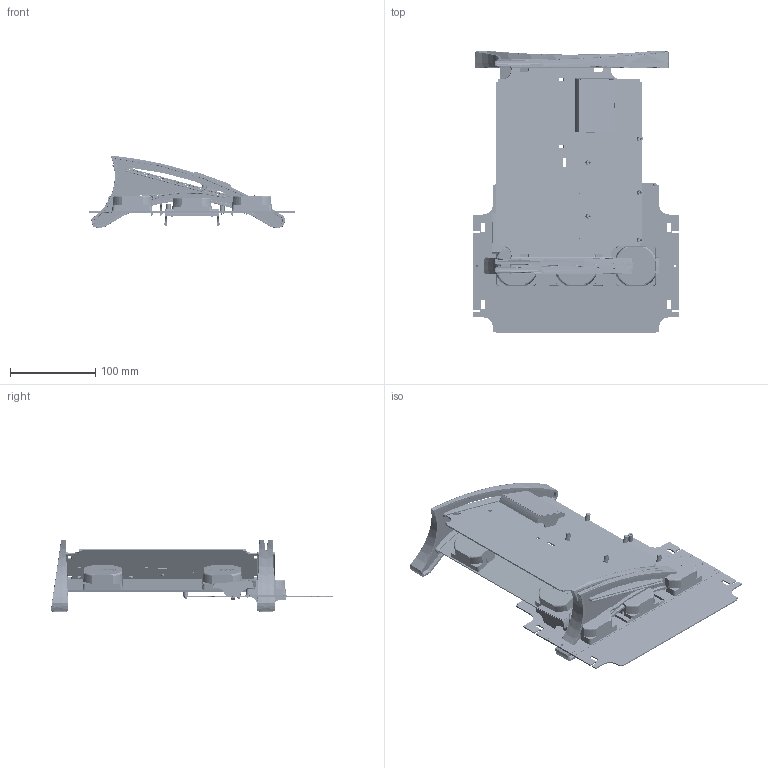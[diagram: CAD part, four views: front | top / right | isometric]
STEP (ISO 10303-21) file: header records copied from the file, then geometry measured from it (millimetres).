
FILE_DESCRIPTION( ( 'Unknown' ), '1' );
FILE_NAME( '//Alpha/industrial design/Projects/Project - NB2 Starter Kit/Product Documentation/Product/Transfer Files/Assembly (update 2).stp', 'Unknown', ( 'Unknown' ), ( 'Unknown' ), 'PSStep 10.0', 'Unknown', ' ' );
FILE_SCHEMA( ( 'automotive_design' ) );
Length unit declared in the file: millimetre
Products named in the file (21): PCB Assembly - incl PB; Speaker PCB Assembly; Assem1; Speaker PCB; Speaker Cover; Speaker Cover-oa4; LCD Support; LCD Screen (TS8003K); LCD PCB; NB2STR01 PCB; PCB Spacer - Solder Mount 8.5 long; PCB Spacer - Solder Mount 8.5 long-oa0; PCB Spacer - Solder Mount 8.5 long-oa1; PCB Spacer - Solder Mount 8.5 long-oa2; PCB Spacer - Solder Mount 8.5 long-oa3; Side Panel - Left; Side Panel - Right; Foot Oval - non-slip clear; Foot Oval - non-slip clear-oa5; Foot Oval - non-slip clear-oa6; Foot Oval - non-slip clear-oa7
Bounding box: 242 x 330.7 x 84.93 mm (x, y, z)
Volume: 507517.6 mm3; surface area: 592982.8 mm2
Topology: 48 solids, 48 shells, 5222 faces, 14620 edges, 9595 vertices
Faces by surface type: cylinder 2288, plane 1736, bspline 538, cone 352, torus 280, sphere 28
Full cylindrical faces by diameter (mm): 0.8 x6, 1.528 x6, 1.8 x24, 2.459 x30, 2.5 x678, 3 x6, 3.1 x6, 5.5 x15
Entity records: 73347 total; most frequent: CARTESIAN_POINT 23430, DIRECTION 10268, ORIENTED_EDGE 10022, EDGE_CURVE 5011, AXIS2_PLACEMENT_3D 4019, VERTEX_POINT 3396, EDGE_LOOP 2864, FACE_OUTER_BOUND 2251
